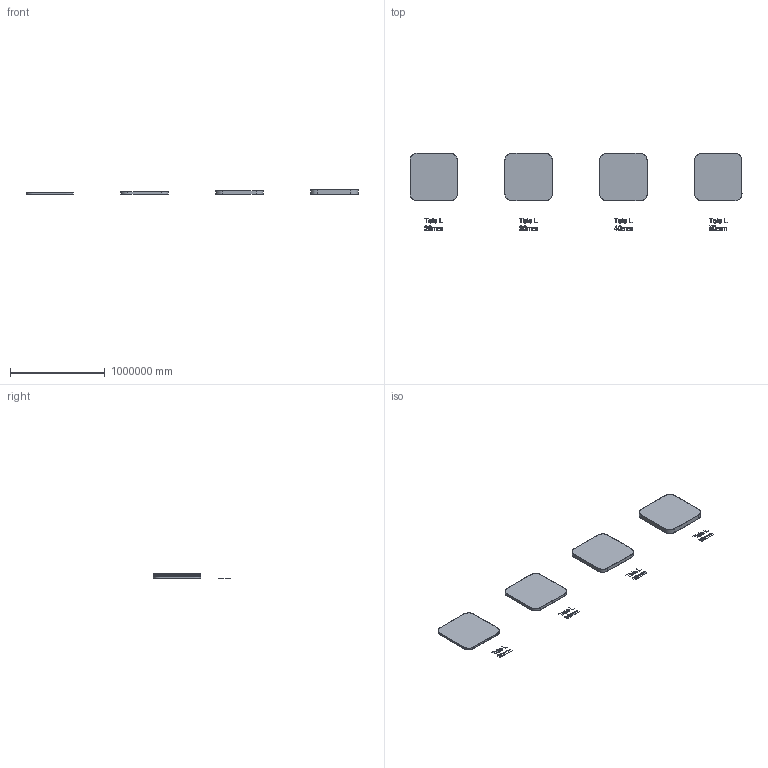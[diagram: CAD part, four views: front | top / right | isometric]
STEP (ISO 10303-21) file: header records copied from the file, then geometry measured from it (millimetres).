
FILE_DESCRIPTION(/* description */ (''),/* implementation_level */ '2;1');
FILE_NAME(/* name */ 'FLUFFO_SOFT_TELE_L_20_30_40_50mm',/* time_stamp */ '2018-04-17T23:20:05+02:00',/* author */ (''),/* organization */ (''),/* preprocessor_version */ 'ST-DEVELOPER v15',/* originating_system */ '',/* authorisation */ '');
FILE_SCHEMA (('AUTOMOTIVE_DESIGN'));
Length unit declared in the file: metre
Products named in the file (5): Document; FLUFFO_SOFT_TELE_L_50mm; FLUFFO_SOFT_TELE_L_40mm; FLUFFO_SOFT_TELE_L_30mm; FLUFFO_SOFT_TELE_L_20mm
Assembly tree (4 placements, depth 2):
  Document
    FLUFFO_SOFT_TELE_L_50mm
    FLUFFO_SOFT_TELE_L_40mm
    FLUFFO_SOFT_TELE_L_30mm
    FLUFFO_SOFT_TELE_L_20mm
Bounding box: 3500000 x 815194.35 x 50000 mm (x, y, z)
Volume: 34320793302731780 mm3; surface area: 2238547283821.7 mm2
Topology: 4 solids, 40 shells, 140 faces, 675 edges, 579 vertices
Faces by surface type: bspline 96, plane 44
Entity records: 10191 total; most frequent: CARTESIAN_POINT 6799, ORIENTED_EDGE 846, EDGE_CURVE 622, VERTEX_POINT 526, B_SPLINE_CURVE_WITH_KNOTS 479, EDGE_LOOP 153, ADVANCED_FACE 140, FACE_OUTER_BOUND 140
